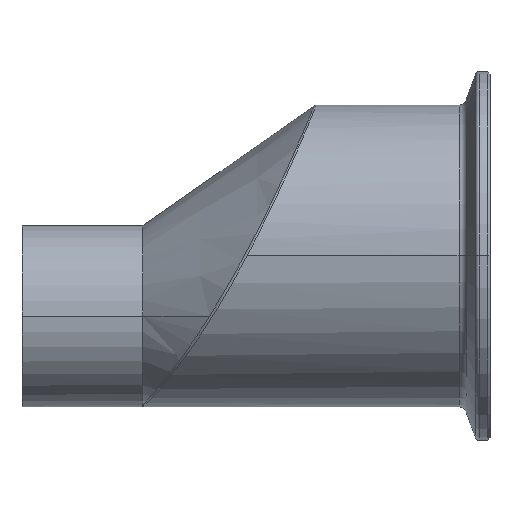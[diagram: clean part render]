
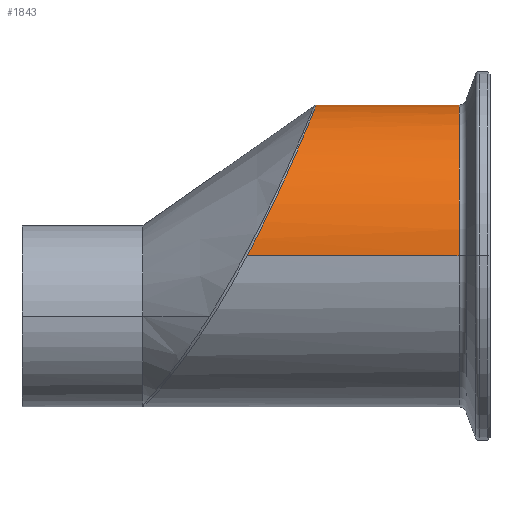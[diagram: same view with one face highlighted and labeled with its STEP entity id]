
A CAD part, top view. The second image highlights one B-rep face of the part: STEP entity #1843.
In plain terms, the highlighted cylindrical face has radius 31.75 mm (diameter 63.5 mm), a partial arc.
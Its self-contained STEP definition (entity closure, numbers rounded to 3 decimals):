
#18 = CARTESIAN_POINT ( 'NONE',  ( 42.694, 0., -31.75 ) ) ;
#49 = CARTESIAN_POINT ( 'NONE',  ( 11.791, 29.496, -11.798 ) ) ;
#75 = VERTEX_POINT ( 'NONE', #593 ) ;
#86 = CARTESIAN_POINT ( 'NONE',  ( 9.198, 23.321, 21.571 ) ) ;
#103 = CARTESIAN_POINT ( 'NONE',  ( 12.706, 31.739, 1.007 ) ) ;
#113 = AXIS2_PLACEMENT_3D ( 'NONE', #761, #1551, #1863 ) ;
#115 = CARTESIAN_POINT ( 'NONE',  ( 4.755, 13.349, -28.876 ) ) ;
#160 = CARTESIAN_POINT ( 'NONE',  ( 12.684, 31.685, 2.108 ) ) ;
#192 = CARTESIAN_POINT ( 'NONE',  ( 12.222, 30.548, -8.72 ) ) ;
#229 = CARTESIAN_POINT ( 'NONE',  ( 10.426, 26.212, -17.924 ) ) ;
#236 = ORIENTED_EDGE ( 'NONE', *, *, #337, .T. ) ;
#282 = EDGE_CURVE ( 'NONE', #75, #1134, #1103, .T. ) ;
#293 = CARTESIAN_POINT ( 'NONE',  ( 5.582, 15.147, -27.98 ) ) ;
#298 = CARTESIAN_POINT ( 'NONE',  ( 6.755, 17.75, -26.33 ) ) ;
#305 = CARTESIAN_POINT ( 'NONE',  ( 2.312, 8.22, 30.671 ) ) ;
#337 = EDGE_CURVE ( 'NONE', #1964, #75, #1163, .T. ) ;
#353 = CARTESIAN_POINT ( 'NONE',  ( 42.694, 0., 0. ) ) ;
#356 = CARTESIAN_POINT ( 'NONE',  ( 11.435, 28.632, -13.762 ) ) ;
#362 = DIRECTION ( 'NONE',  ( -1., 0., 0. ) ) ;
#380 = DIRECTION ( 'NONE',  ( 0., 0., 1. ) ) ;
#384 = CARTESIAN_POINT ( 'NONE',  ( 10.843, 27.204, 16.509 ) ) ;
#404 = CARTESIAN_POINT ( 'NONE',  ( 11.966, 29.924, 10.627 ) ) ;
#412 = CARTESIAN_POINT ( 'NONE',  ( 6.784, 17.814, 26.287 ) ) ;
#419 = CARTESIAN_POINT ( 'NONE',  ( 6.591, 17.383, 26.574 ) ) ;
#426 = CARTESIAN_POINT ( 'NONE',  ( 12.039, 30.101, 10.113 ) ) ;
#437 = CARTESIAN_POINT ( 'NONE',  ( 7.318, 19.014, -25.432 ) ) ;
#443 = EDGE_CURVE ( 'NONE', #991, #1134, #1080, .T. ) ;
#528 = CARTESIAN_POINT ( 'NONE',  ( 7.886, 20.298, 24.436 ) ) ;
#545 = CARTESIAN_POINT ( 'NONE',  ( 11.949, 29.88, -10.79 ) ) ;
#593 = CARTESIAN_POINT ( 'NONE',  ( -1.852, 0., -31.75 ) ) ;
#622 = AXIS2_PLACEMENT_3D ( 'NONE', #353, #362, #380 ) ;
#632 = CARTESIAN_POINT ( 'NONE',  ( 2.073, 7.729, -30.799 ) ) ;
#677 = EDGE_CURVE ( 'NONE', #991, #1964, #2069, .T. ) ;
#683 = CARTESIAN_POINT ( 'NONE',  ( 8.203, 21.023, -23.815 ) ) ;
#702 = CARTESIAN_POINT ( 'NONE',  ( 8.886, 22.596, 22.329 ) ) ;
#730 = CARTESIAN_POINT ( 'NONE',  ( 12.241, 30.594, 8.558 ) ) ;
#750 = CARTESIAN_POINT ( 'NONE',  ( 10.065, 25.357, 19.115 ) ) ;
#761 = CARTESIAN_POINT ( 'NONE',  ( -47.684, 0., 0. ) ) ;
#771 = CARTESIAN_POINT ( 'NONE',  ( 5.609, 15.205, 27.949 ) ) ;
#772 = CARTESIAN_POINT ( 'NONE',  ( -1.852, 0., -31.75 ) ) ;
#778 = CARTESIAN_POINT ( 'NONE',  ( 1.36, 6.279, -31.127 ) ) ;
#802 = CARTESIAN_POINT ( 'NONE',  ( 2.306, 8.208, -30.675 ) ) ;
#850 = CARTESIAN_POINT ( 'NONE',  ( 8.23, 21.084, 23.762 ) ) ;
#856 = CARTESIAN_POINT ( 'NONE',  ( 7.161, 18.659, 25.694 ) ) ;
#896 = CARTESIAN_POINT ( 'NONE',  ( 12.6, 31.477, 4.3 ) ) ;
#914 = EDGE_LOOP ( 'NONE', ( #1429, #236, #1137, #1614 ) ) ;
#919 = CARTESIAN_POINT ( 'NONE',  ( 3.46, 10.604, 29.943 ) ) ;
#927 = CARTESIAN_POINT ( 'NONE',  ( 42.694, 0., 31.75 ) ) ;
#929 = CARTESIAN_POINT ( 'NONE',  ( 9.787, 24.701, 19.955 ) ) ;
#982 = CARTESIAN_POINT ( 'NONE',  ( -1.852, 0., 31.75 ) ) ;
#991 = VERTEX_POINT ( 'NONE', #927 ) ;
#1018 = CARTESIAN_POINT ( 'NONE',  ( 9.773, 24.663, -20.109 ) ) ;
#1027 = CARTESIAN_POINT ( 'NONE',  ( 9.184, 23.283, -21.685 ) ) ;
#1080 = LINE ( 'NONE', #1543, #1871 ) ;
#1101 = CARTESIAN_POINT ( 'NONE',  ( 0.151, 3.85, -31.578 ) ) ;
#1103 = B_SPLINE_CURVE_WITH_KNOTS ( 'NONE', 3,
 ( #772, #1272, #1101, #778, #1266, #632, #802, #1888, #1416, #115, #293, #1110, #298, #1720, #437, #1509, #683, #1027, #1018, #229, #2029, #1224, #1177, #1974, #356, #49, #545, #192, #1985, #1387, #1864, #1314, #103, #160, #1394, #896, #1649, #1196, #730, #426, #404, #1528, #1559, #1553, #384, #1805, #750, #929, #1217, #86, #702, #850, #528, #1956, #856, #412, #419, #771, #2047, #919, #1109, #305, #1466, #2073, #2024, #1271, #1300, #1588 ),
 .UNSPECIFIED., .F., .F.,
 ( 4, 2, 2, 2, 2, 2, 2, 2, 2, 2, 2, 2, 2, 2, 2, 2, 2, 2, 2, 2, 2, 2, 2, 2, 2, 2, 2, 2, 2, 2, 2, 2, 2, 4 ),
 ( 0.051, 0.058, 0.059, 0.061, 0.064, 0.071, 0.072, 0.074, 0.077, 0.084, 0.086, 0.087, 0.09, 0.094, 0.097, 0.104, 0.105, 0.107, 0.11, 0.113, 0.115, 0.117, 0.123, 0.125, 0.127, 0.13, 0.133, 0.135, 0.136, 0.143, 0.146, 0.148, 0.149, 0.156 ),
 .UNSPECIFIED. ) ;
#1109 = CARTESIAN_POINT ( 'NONE',  ( 3.009, 9.659, 30.262 ) ) ;
#1110 = CARTESIAN_POINT ( 'NONE',  ( 6.562, 17.318, -26.616 ) ) ;
#1134 = VERTEX_POINT ( 'NONE', #982 ) ;
#1137 = ORIENTED_EDGE ( 'NONE', *, *, #282, .T. ) ;
#1163 = LINE ( 'NONE', #1835, #1396 ) ;
#1177 = CARTESIAN_POINT ( 'NONE',  ( 10.907, 27.362, -16.114 ) ) ;
#1196 = CARTESIAN_POINT ( 'NONE',  ( 12.353, 30.869, 7.508 ) ) ;
#1217 = CARTESIAN_POINT ( 'NONE',  ( 9.642, 24.361, 20.368 ) ) ;
#1224 = CARTESIAN_POINT ( 'NONE',  ( 10.792, 27.087, -16.572 ) ) ;
#1264 = FACE_OUTER_BOUND ( 'NONE', #914, .T. ) ;
#1266 = CARTESIAN_POINT ( 'NONE',  ( 1.6, 6.765, -31.025 ) ) ;
#1271 = CARTESIAN_POINT ( 'NONE',  ( 0.16, 3.868, 31.575 ) ) ;
#1272 = CARTESIAN_POINT ( 'NONE',  ( -0.838, 1.918, -31.75 ) ) ;
#1300 = CARTESIAN_POINT ( 'NONE',  ( -0.83, 1.933, 31.75 ) ) ;
#1314 = CARTESIAN_POINT ( 'NONE',  ( 12.711, 31.751, 0.458 ) ) ;
#1387 = CARTESIAN_POINT ( 'NONE',  ( 12.615, 31.513, -4.444 ) ) ;
#1394 = CARTESIAN_POINT ( 'NONE',  ( 12.667, 31.643, 2.66 ) ) ;
#1396 = VECTOR ( 'NONE', #2030, 1000. ) ;
#1416 = CARTESIAN_POINT ( 'NONE',  ( 3.445, 10.573, -29.954 ) ) ;
#1429 = ORIENTED_EDGE ( 'NONE', *, *, #677, .T. ) ;
#1466 = CARTESIAN_POINT ( 'NONE',  ( 2.077, 7.737, 30.797 ) ) ;
#1509 = CARTESIAN_POINT ( 'NONE',  ( 7.86, 20.238, -24.486 ) ) ;
#1528 = CARTESIAN_POINT ( 'NONE',  ( 11.809, 29.541, 11.649 ) ) ;
#1543 = CARTESIAN_POINT ( 'NONE',  ( -47.684, 0., 31.75 ) ) ;
#1551 = DIRECTION ( 'NONE',  ( -1., 0., 0. ) ) ;
#1553 = CARTESIAN_POINT ( 'NONE',  ( 11.279, 28.254, 14.646 ) ) ;
#1559 = CARTESIAN_POINT ( 'NONE',  ( 11.725, 29.336, 12.156 ) ) ;
#1588 = CARTESIAN_POINT ( 'NONE',  ( -1.852, 0., 31.75 ) ) ;
#1614 = ORIENTED_EDGE ( 'NONE', *, *, #443, .F. ) ;
#1622 = CYLINDRICAL_SURFACE ( 'NONE', #113, 31.75 ) ;
#1649 = CARTESIAN_POINT ( 'NONE',  ( 12.532, 31.31, 5.379 ) ) ;
#1720 = CARTESIAN_POINT ( 'NONE',  ( 7.134, 18.598, -25.738 ) ) ;
#1805 = CARTESIAN_POINT ( 'NONE',  ( 10.199, 25.674, 18.687 ) ) ;
#1823 = DIRECTION ( 'NONE',  ( -1., 0., 0. ) ) ;
#1835 = CARTESIAN_POINT ( 'NONE',  ( -47.684, 0., -31.75 ) ) ;
#1843 = ADVANCED_FACE ( 'NONE', ( #1264 ), #1622, .T. ) ;
#1863 = DIRECTION ( 'NONE',  ( 0., 0., 1. ) ) ;
#1864 = CARTESIAN_POINT ( 'NONE',  ( 12.708, 31.744, -2.279 ) ) ;
#1871 = VECTOR ( 'NONE', #1823, 1000. ) ;
#1888 = CARTESIAN_POINT ( 'NONE',  ( 2.997, 9.634, -30.269 ) ) ;
#1956 = CARTESIAN_POINT ( 'NONE',  ( 7.345, 19.074, 25.387 ) ) ;
#1964 = VERTEX_POINT ( 'NONE', #18 ) ;
#1974 = CARTESIAN_POINT ( 'NONE',  ( 11.236, 28.153, -14.718 ) ) ;
#1985 = CARTESIAN_POINT ( 'NONE',  ( 12.338, 30.833, -7.652 ) ) ;
#2024 = CARTESIAN_POINT ( 'NONE',  ( 1.363, 6.286, 31.125 ) ) ;
#2029 = CARTESIAN_POINT ( 'NONE',  ( 10.552, 26.512, -17.477 ) ) ;
#2030 = DIRECTION ( 'NONE',  ( -1., 0., 0. ) ) ;
#2047 = CARTESIAN_POINT ( 'NONE',  ( 4.778, 13.398, 28.854 ) ) ;
#2069 = CIRCLE ( 'NONE', #622, 31.75 ) ;
#2073 = CARTESIAN_POINT ( 'NONE',  ( 1.602, 6.769, 31.024 ) ) ;
